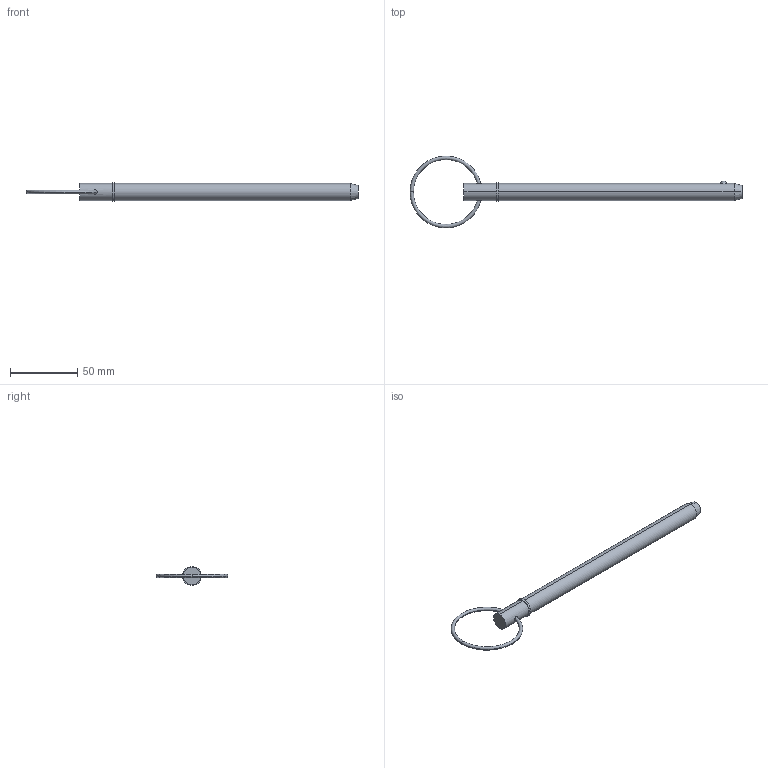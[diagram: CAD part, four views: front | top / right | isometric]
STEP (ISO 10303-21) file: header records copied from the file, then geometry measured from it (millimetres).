
FILE_DESCRIPTION (( 'STEP AP203' ), '1' );
FILE_NAME ('33016.W5065.step', '2024-11-07T11:10:11', ( '' ), ( '' ), 'SwSTEP 2.0', 'SolidWorks 2019', '' );
FILE_SCHEMA (( 'CONFIG_CONTROL_DESIGN' ));
Length unit declared in the file: millimetre
Products named in the file (3): Part1_33016.W5065; Part2_33016.W5065; 33016.W5065
Assembly tree (2 placements, depth 2):
  33016.W5065
    Part1_33016.W5065
    Part2_33016.W5065
Bounding box: 246.73 x 53.34 x 13.97 mm (x, y, z)
Volume: 26771.3 mm3; surface area: 9875.6 mm2
Topology: 2 solids, 2 shells, 22 faces, 43 edges, 26 vertices
Faces by surface type: torus 8, cylinder 6, plane 4, sphere 2, cone 2
Entity records: 1039 total; most frequent: CARTESIAN_POINT 262, DIRECTION 120, ORIENTED_EDGE 86, AXIS2_PLACEMENT_3D 56, EDGE_CURVE 43, CIRCLE 29, EDGE_LOOP 27, VERTEX_POINT 26
